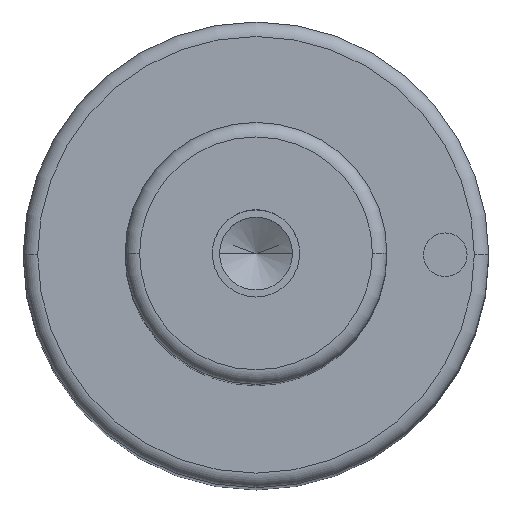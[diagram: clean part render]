
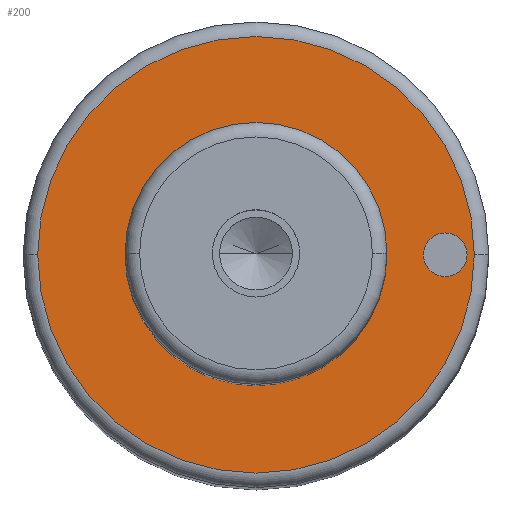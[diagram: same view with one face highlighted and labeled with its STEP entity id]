
A CAD part, top view. The second image highlights one B-rep face of the part: STEP entity #200.
In plain terms, the highlighted planar face has unit normal (0, 0, 1).
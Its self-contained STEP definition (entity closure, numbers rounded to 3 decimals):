
#99=PLANE('',#596);
#107=FACE_BOUND('',#265,.T.);
#108=FACE_BOUND('',#266,.T.);
#109=FACE_BOUND('',#267,.T.);
#200=ADVANCED_FACE('',(#107,#108,#109),#99,.T.);
#265=EDGE_LOOP('',(#359,#360));
#266=EDGE_LOOP('',(#361,#362));
#267=EDGE_LOOP('',(#363,#364));
#359=ORIENTED_EDGE('',*,*,#460,.F.);
#360=ORIENTED_EDGE('',*,*,#461,.F.);
#361=ORIENTED_EDGE('',*,*,#485,.F.);
#362=ORIENTED_EDGE('',*,*,#486,.F.);
#363=ORIENTED_EDGE('',*,*,#456,.T.);
#364=ORIENTED_EDGE('',*,*,#454,.T.);
#411=VERTEX_POINT('',#808);
#412=VERTEX_POINT('',#810);
#413=VERTEX_POINT('',#816);
#416=VERTEX_POINT('',#821);
#430=VERTEX_POINT('',#875);
#431=VERTEX_POINT('',#876);
#454=EDGE_CURVE('',#412,#411,#513,.T.);
#456=EDGE_CURVE('',#411,#412,#514,.T.);
#460=EDGE_CURVE('',#416,#413,#518,.T.);
#461=EDGE_CURVE('',#413,#416,#519,.T.);
#485=EDGE_CURVE('',#430,#431,#533,.T.);
#486=EDGE_CURVE('',#431,#430,#534,.T.);
#513=CIRCLE('',#558,9.);
#514=CIRCLE('',#560,9.);
#518=CIRCLE('',#565,15.);
#519=CIRCLE('',#567,15.);
#533=CIRCLE('',#594,1.5);
#534=CIRCLE('',#595,1.5);
#558=AXIS2_PLACEMENT_3D('',#809,#647,#648);
#560=AXIS2_PLACEMENT_3D('',#813,#652,#653);
#565=AXIS2_PLACEMENT_3D('',#822,#662,#663);
#567=AXIS2_PLACEMENT_3D('',#824,#666,#667);
#594=AXIS2_PLACEMENT_3D('',#874,#730,#731);
#595=AXIS2_PLACEMENT_3D('',#877,#732,#733);
#596=AXIS2_PLACEMENT_3D('',#878,#734,#735);
#647=DIRECTION('',(0.,0.,-1.));
#648=DIRECTION('',(0.,1.,0.));
#652=DIRECTION('',(0.,0.,-1.));
#653=DIRECTION('',(0.,-1.,0.));
#662=DIRECTION('',(0.,0.,-1.));
#663=DIRECTION('',(0.,1.,0.));
#666=DIRECTION('',(0.,0.,-1.));
#667=DIRECTION('',(0.,-1.,0.));
#730=DIRECTION('',(0.,0.,1.));
#731=DIRECTION('',(0.,1.,0.));
#732=DIRECTION('',(0.,0.,1.));
#733=DIRECTION('',(0.,-1.,0.));
#734=DIRECTION('',(0.,0.,1.));
#735=DIRECTION('',(0.,-1.,0.));
#808=CARTESIAN_POINT('',(-9.,0.,93.));
#809=CARTESIAN_POINT('',(0.,0.,93.));
#810=CARTESIAN_POINT('',(9.,0.,93.));
#813=CARTESIAN_POINT('',(0.,0.,93.));
#816=CARTESIAN_POINT('',(-15.,0.,93.));
#821=CARTESIAN_POINT('',(15.,0.,93.));
#822=CARTESIAN_POINT('',(0.,0.,93.));
#824=CARTESIAN_POINT('',(0.,0.,93.));
#874=CARTESIAN_POINT('',(13.,0.,93.));
#875=CARTESIAN_POINT('',(11.5,0.,93.));
#876=CARTESIAN_POINT('',(14.5,0.,93.));
#877=CARTESIAN_POINT('',(13.,0.,93.));
#878=CARTESIAN_POINT('',(0.,0.,93.));
